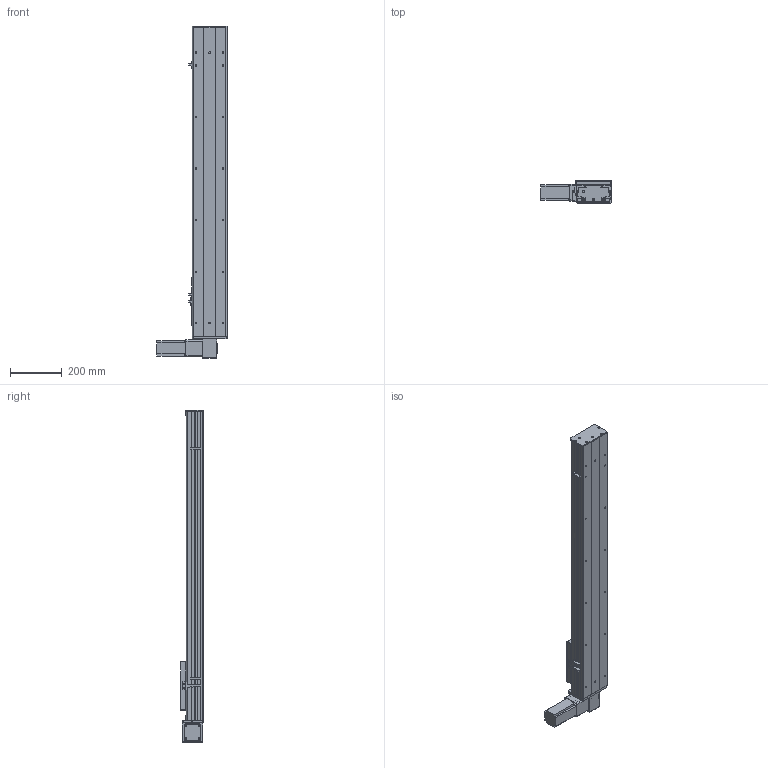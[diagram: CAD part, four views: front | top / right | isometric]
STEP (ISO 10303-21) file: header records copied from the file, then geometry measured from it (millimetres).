
FILE_DESCRIPTION (( 'STEP AP203' ), '1' );
FILE_NAME ('Y135CB-D90-S900-BD-P400W.STEP', '2020-02-19T03:21:32', ( '微软用户' ), ( '微软中国' ), 'SwSTEP 2.0', 'SolidWorks 2017', '' );
FILE_SCHEMA (( 'CONFIG_CONTROL_DESIGN' ));
Length unit declared in the file: millimetre
Products named in the file (16): 5CB --掛极耜裔啣-; C-詩湍揤踡え-陔; 135CB--詩湍-CE; Y135CB-耜裔; Y100-135俋离換覜ん--; 135CB---遴掛极.-; Y135C-陔俋离換覜結え-; 35CB---喘謫眊楊擘啣; 5C--俋欶; 0B-埴倛裔啣; C-雄赽釱--; 0B-源倛裔啣; 0B-薊粣ん眊; Y10B--々湍喘謫眊--666; Y135CB-D90-S900-BD-P400W; san松下电机400不带刹车----
Assembly tree (19 placements, depth 2):
  Y135CB-D90-S900-BD-P400W
    Y135CB-耜裔
    135CB---遴掛极.-
    35CB---喘謫眊楊擘啣
    0B-埴倛裔啣
    0B-源倛裔啣
    san松下电机400不带刹车----
    5CB --掛极耜裔啣-  x2
    C-詩湍揤踡え-陔  x2
    135CB--詩湍-CE
    Y100-135俋离換覜ん--  x3
    Y135C-陔俋离換覜結え-
    5C--俋欶
    C-雄赽釱--
    Y10B--々湍喘謫眊--666
    0B-薊粣ん眊
Bounding box: 272 x 91 x 1288 mm (x, y, z)
Volume: 4126987.4 mm3; surface area: 1568297 mm2
Topology: 19 solids, 19 shells, 855 faces, 2266 edges, 1500 vertices
Faces by surface type: cylinder 424, plane 415, cone 16
Entity records: 26006 total; most frequent: DIRECTION 4334, CARTESIAN_POINT 4247, ORIENTED_EDGE 4008, EDGE_CURVE 2004, AXIS2_PLACEMENT_3D 1587, VERTEX_POINT 1328, VECTOR 1160, LINE 1160
